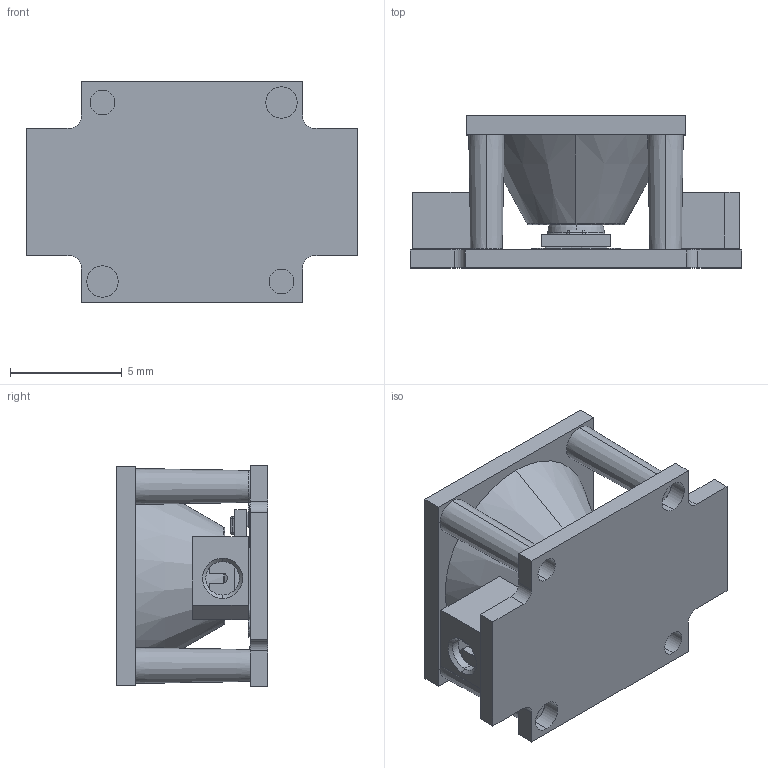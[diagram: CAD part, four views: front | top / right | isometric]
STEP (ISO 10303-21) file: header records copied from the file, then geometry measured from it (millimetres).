
FILE_DESCRIPTION (( 'STEP AP214' ), '1' );
FILE_NAME ('SW-15.STEP', '2023-11-14T03:43:39', ( '' ), ( '' ), 'SwSTEP 2.0', 'SolidWorks 2021', '' );
FILE_SCHEMA (( 'AUTOMOTIVE_DESIGN' ));
Length unit declared in the file: millimetre
Products named in the file (1): SW-15
Bounding box: 14.8 x 6.79 x 9.9 mm (x, y, z)
Volume: 245.8 mm3; surface area: 970.5 mm2
Topology: 7 solids, 7 shells, 668 faces, 1753 edges, 1147 vertices
Faces by surface type: plane 433, cylinder 109, bspline 88, cone 20, torus 12, sphere 6
Entity records: 27679 total; most frequent: CARTESIAN_POINT 8065, ORIENTED_EDGE 3492, DIRECTION 3003, EDGE_CURVE 1746, VECTOR 1299, LINE 1299, VERTEX_POINT 1146, AXIS2_PLACEMENT_3D 852
